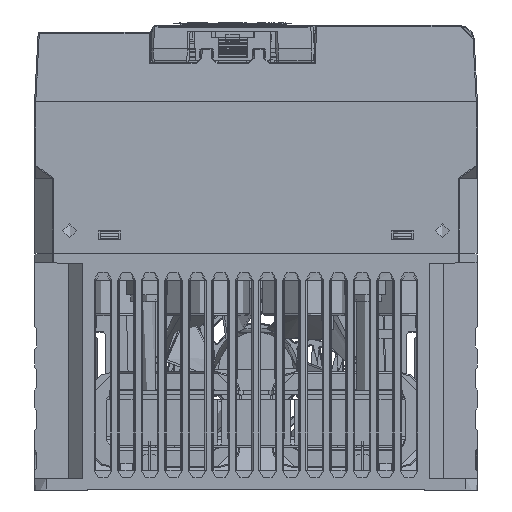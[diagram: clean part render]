
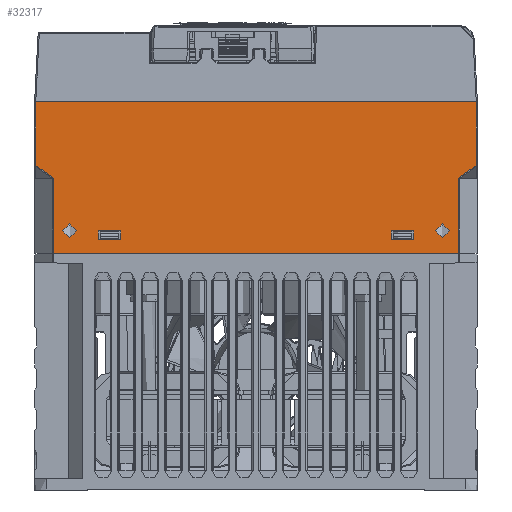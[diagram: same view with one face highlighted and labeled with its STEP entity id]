
A CAD part, left-side view. The second image highlights one B-rep face of the part: STEP entity #32317.
In plain terms, the highlighted planar face has unit normal (-1, 0, 0).
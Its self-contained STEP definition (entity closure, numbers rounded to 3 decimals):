
#32317=ADVANCED_FACE('',(#70919,#70921,#70923,#70925,#70927),#70929,.F.);
#70919=FACE_BOUND('',#70920,.T.);
#70920=EDGE_LOOP('',(#106981,#106982,#106983,#106984,#106985,#106986,#106987,#106988));
#70921=FACE_BOUND('',#70922,.T.);
#70922=EDGE_LOOP('',(#106989,#106990,#106991,#106992));
#70923=FACE_BOUND('',#70924,.T.);
#70924=EDGE_LOOP('',(#106993));
#70925=FACE_BOUND('',#70926,.T.);
#70926=EDGE_LOOP('',(#106994));
#70927=FACE_BOUND('',#70928,.T.);
#70928=EDGE_LOOP('',(#106995,#106996,#106997,#106998));
#70929=PLANE('',#70930);
#70930=AXIS2_PLACEMENT_3D('',#70931,#70932,#70933);
#70931=CARTESIAN_POINT('',(-170.311,165.784,141.36));
#70932=DIRECTION('',(1.,0.,0.));
#70933=DIRECTION('',(0.,0.,-1.));
#106981=ORIENTED_EDGE('',*,*,#130928,.F.);
#106982=ORIENTED_EDGE('',*,*,#130929,.T.);
#106983=ORIENTED_EDGE('',*,*,#130926,.T.);
#106984=ORIENTED_EDGE('',*,*,#130913,.T.);
#106985=ORIENTED_EDGE('',*,*,#130930,.T.);
#106986=ORIENTED_EDGE('',*,*,#130908,.T.);
#106987=ORIENTED_EDGE('',*,*,#130931,.T.);
#106988=ORIENTED_EDGE('',*,*,#130898,.T.);
#106989=ORIENTED_EDGE('',*,*,#130896,.F.);
#106990=ORIENTED_EDGE('',*,*,#130893,.F.);
#106991=ORIENTED_EDGE('',*,*,#130890,.F.);
#106992=ORIENTED_EDGE('',*,*,#130887,.F.);
#106993=ORIENTED_EDGE('',*,*,#127031,.F.);
#106994=ORIENTED_EDGE('',*,*,#127033,.F.);
#106995=ORIENTED_EDGE('',*,*,#130884,.F.);
#106996=ORIENTED_EDGE('',*,*,#130881,.F.);
#106997=ORIENTED_EDGE('',*,*,#130878,.F.);
#106998=ORIENTED_EDGE('',*,*,#130875,.F.);
#127031=EDGE_CURVE('',#153058,#153058,#153059,.T.);
#127033=EDGE_CURVE('',#153062,#153062,#153063,.T.);
#130875=EDGE_CURVE('',#159528,#159530,#159531,.T.);
#130878=EDGE_CURVE('',#159530,#159535,#159536,.T.);
#130881=EDGE_CURVE('',#159535,#159540,#159541,.T.);
#130884=EDGE_CURVE('',#159540,#159528,#159544,.T.);
#130887=EDGE_CURVE('',#159548,#159550,#159551,.T.);
#130890=EDGE_CURVE('',#159550,#159555,#159556,.T.);
#130893=EDGE_CURVE('',#159555,#159560,#159561,.T.);
#130896=EDGE_CURVE('',#159560,#159548,#159564,.T.);
#130898=EDGE_CURVE('',#159568,#159565,#159569,.T.);
#130908=EDGE_CURVE('',#159587,#159585,#159588,.T.);
#130913=EDGE_CURVE('',#159590,#159595,#159597,.T.);
#130926=EDGE_CURVE('',#159618,#159590,#159619,.T.);
#130928=EDGE_CURVE('',#159621,#159565,#159622,.T.);
#130929=EDGE_CURVE('',#159621,#159618,#159623,.T.);
#130930=EDGE_CURVE('',#159595,#159587,#159624,.T.);
#130931=EDGE_CURVE('',#159585,#159568,#159625,.T.);
#153058=VERTEX_POINT('',#213268);
#153059=CIRCLE('',#213269,3.);
#153062=VERTEX_POINT('',#213325);
#153063=CIRCLE('',#213326,3.);
#159528=VERTEX_POINT('',#227737);
#159530=VERTEX_POINT('',#227741);
#159531=LINE('',#227742,#227743);
#159535=VERTEX_POINT('',#227752);
#159536=LINE('',#227753,#227754);
#159540=VERTEX_POINT('',#227763);
#159541=LINE('',#227764,#227765);
#159544=LINE('',#227773,#227774);
#159548=VERTEX_POINT('',#227781);
#159550=VERTEX_POINT('',#227785);
#159551=LINE('',#227786,#227787);
#159555=VERTEX_POINT('',#227796);
#159556=LINE('',#227797,#227798);
#159560=VERTEX_POINT('',#227807);
#159561=LINE('',#227808,#227809);
#159564=LINE('',#227817,#227818);
#159565=VERTEX_POINT('',#227820);
#159568=VERTEX_POINT('',#227826);
#159569=LINE('',#227827,#227828);
#159585=VERTEX_POINT('',#227864);
#159587=VERTEX_POINT('',#227869);
#159588=LINE('',#227870,#227871);
#159590=VERTEX_POINT('',#227877);
#159595=VERTEX_POINT('',#227887);
#159597=LINE('',#227892,#227893);
#159618=VERTEX_POINT('',#227944);
#159619=LINE('',#227945,#227946);
#159621=VERTEX_POINT('',#227952);
#159622=LINE('',#227953,#227954);
#159623=LINE('',#227956,#227957);
#159624=LINE('',#227959,#227960);
#159625=LINE('',#227962,#227963);
#213268=CARTESIAN_POINT('',(-170.311,3.784,88.96));
#213269=AXIS2_PLACEMENT_3D('',#213270,#213271,#213272);
#213270=CARTESIAN_POINT('',(-170.311,3.784,85.96));
#213271=DIRECTION('',(-1.,0.,0.));
#213272=DIRECTION('',(0.,0.,-1.));
#213325=CARTESIAN_POINT('',(-170.311,163.784,88.96));
#213326=AXIS2_PLACEMENT_3D('',#213327,#213328,#213329);
#213327=CARTESIAN_POINT('',(-170.311,163.784,85.96));
#213328=DIRECTION('',(-1.,0.,0.));
#213329=DIRECTION('',(0.,0.,-1.));
#227737=CARTESIAN_POINT('',(-170.311,151.384,85.96));
#227741=CARTESIAN_POINT('',(-170.311,151.384,82.16));
#227742=CARTESIAN_POINT('',(-170.311,151.384,85.96));
#227743=VECTOR('',#227744,1.);
#227744=DIRECTION('',(0.,0.,-1.));
#227752=CARTESIAN_POINT('',(-170.311,141.784,82.16));
#227753=CARTESIAN_POINT('',(-170.311,151.384,82.16));
#227754=VECTOR('',#227755,1.);
#227755=DIRECTION('',(0.,-1.,0.));
#227763=CARTESIAN_POINT('',(-170.311,141.784,85.96));
#227764=CARTESIAN_POINT('',(-170.311,141.784,82.16));
#227765=VECTOR('',#227766,1.);
#227766=DIRECTION('',(0.,0.,1.));
#227773=CARTESIAN_POINT('',(-170.311,141.784,85.96));
#227774=VECTOR('',#227775,1.);
#227775=DIRECTION('',(0.,1.,0.));
#227781=CARTESIAN_POINT('',(-170.311,25.784,85.96));
#227785=CARTESIAN_POINT('',(-170.311,25.784,82.16));
#227786=CARTESIAN_POINT('',(-170.311,25.784,85.96));
#227787=VECTOR('',#227788,1.);
#227788=DIRECTION('',(0.,0.,-1.));
#227796=CARTESIAN_POINT('',(-170.311,16.184,82.16));
#227797=CARTESIAN_POINT('',(-170.311,25.784,82.16));
#227798=VECTOR('',#227799,1.);
#227799=DIRECTION('',(0.,-1.,0.));
#227807=CARTESIAN_POINT('',(-170.311,16.184,85.96));
#227808=CARTESIAN_POINT('',(-170.311,16.184,82.16));
#227809=VECTOR('',#227810,1.);
#227810=DIRECTION('',(0.,0.,1.));
#227817=CARTESIAN_POINT('',(-170.311,16.184,85.96));
#227818=VECTOR('',#227819,1.);
#227819=DIRECTION('',(0.,1.,0.));
#227820=CARTESIAN_POINT('',(-170.311,-10.716,141.36));
#227826=CARTESIAN_POINT('',(-170.311,-10.716,114.017));
#227827=CARTESIAN_POINT('',(-170.311,-10.716,114.017));
#227828=VECTOR('',#227829,1.);
#227829=DIRECTION('',(0.,0.,1.));
#227864=CARTESIAN_POINT('',(-170.311,-3.009,108.567));
#227869=CARTESIAN_POINT('',(-170.311,-3.009,76.36));
#227870=CARTESIAN_POINT('',(-170.311,-3.009,76.36));
#227871=VECTOR('',#227872,1.);
#227872=DIRECTION('',(0.,0.,1.));
#227877=CARTESIAN_POINT('',(-170.311,170.577,108.567));
#227887=CARTESIAN_POINT('',(-170.311,170.577,76.36));
#227892=CARTESIAN_POINT('',(-170.311,170.577,108.567));
#227893=VECTOR('',#227894,1.);
#227894=DIRECTION('',(0.,0.,-1.));
#227944=CARTESIAN_POINT('',(-170.311,178.284,114.017));
#227945=CARTESIAN_POINT('',(-170.311,178.284,114.017));
#227946=VECTOR('',#227947,1.);
#227947=DIRECTION('',(0.,-0.816,-0.577));
#227952=CARTESIAN_POINT('',(-170.311,178.284,141.36));
#227953=CARTESIAN_POINT('',(-170.311,178.284,141.36));
#227954=VECTOR('',#227955,1.);
#227955=DIRECTION('',(0.,-1.,0.));
#227956=CARTESIAN_POINT('',(-170.311,178.284,141.36));
#227957=VECTOR('',#227958,1.);
#227958=DIRECTION('',(0.,0.,-1.));
#227959=CARTESIAN_POINT('',(-170.311,170.577,76.36));
#227960=VECTOR('',#227961,1.);
#227961=DIRECTION('',(0.,-1.,0.));
#227962=CARTESIAN_POINT('',(-170.311,-3.009,108.567));
#227963=VECTOR('',#227964,1.);
#227964=DIRECTION('',(0.,-0.816,0.577));
